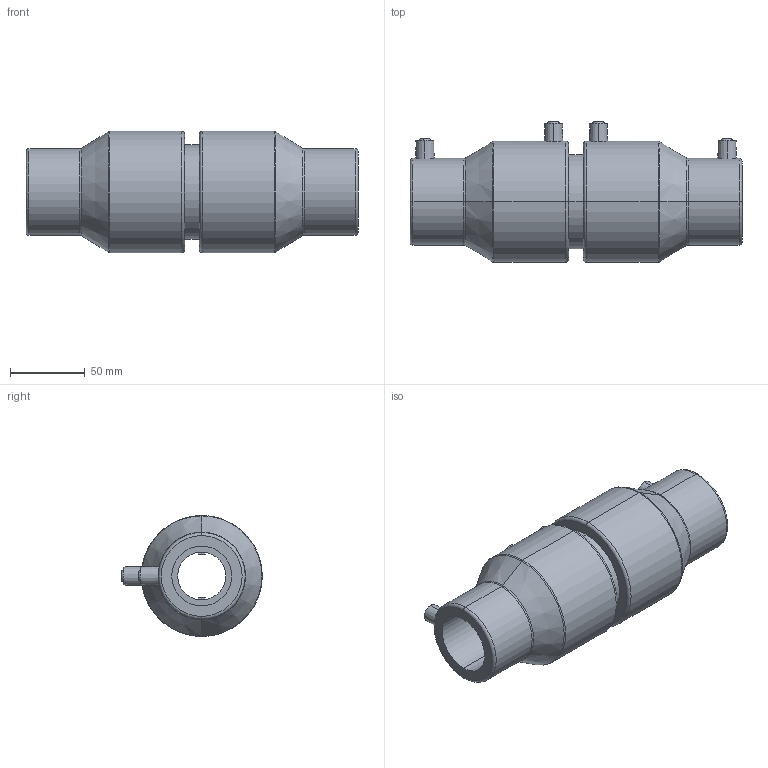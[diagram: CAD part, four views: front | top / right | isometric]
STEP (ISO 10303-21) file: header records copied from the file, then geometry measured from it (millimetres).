
FILE_DESCRIPTION (( 'STEP AP203' ), '1' );
FILE_NAME ('KP_2-63-40SC.step', '2011-08-08T12:06:26', ( '' ), ( '' ), 'SwSTEP 2.0', 'SolidWorks 2011', '' );
FILE_SCHEMA (( 'CONFIG_CONTROL_DESIGN' ));
Length unit declared in the file: millimetre
Products named in the file (1): KP_2-63-40SC
Bounding box: 222 x 94 x 81 mm (x, y, z)
Volume: 540741.3 mm3; surface area: 114082 mm2
Topology: 1 solids, 11 shells, 244 faces, 550 edges, 344 vertices
Faces by surface type: cylinder 86, plane 54, torus 52, cone 52
Entity records: 8991 total; most frequent: CARTESIAN_POINT 3449, DIRECTION 1178, ORIENTED_EDGE 1100, EDGE_CURVE 550, AXIS2_PLACEMENT_3D 503, VERTEX_POINT 344, EDGE_LOOP 278, CIRCLE 258
